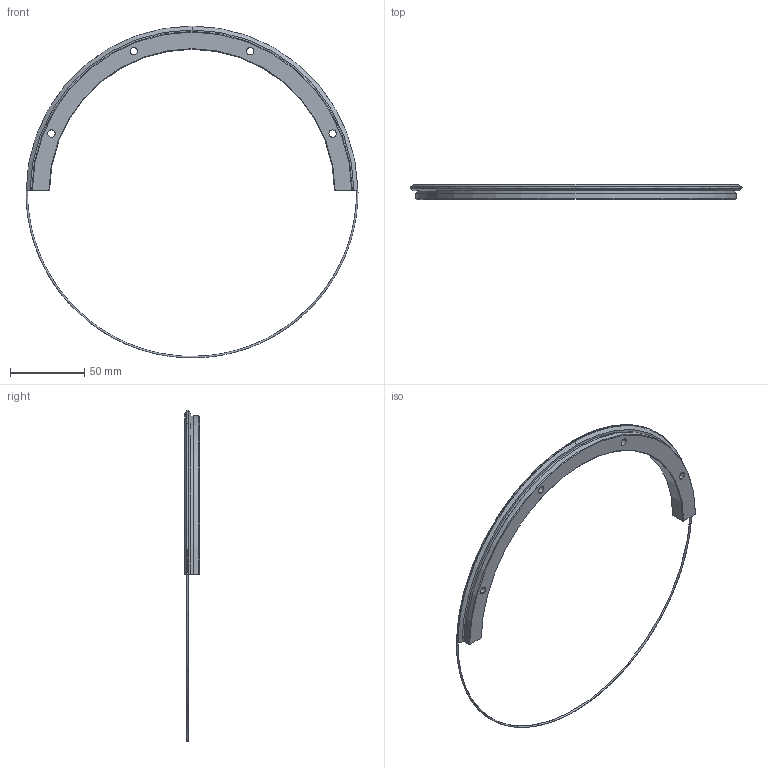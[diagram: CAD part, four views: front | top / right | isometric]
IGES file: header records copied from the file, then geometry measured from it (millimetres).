
Start section: 3D InterOp IGES (v. 2019 1.0.2), Spatial Corp. Copyright (c) 1999-2017.
Global section: file name: REV 223 R180.igs; native system: Spatial Corp.; preprocessor: 3D InterOp GENERIC/IGES 3.0; author: Noname; organization: Noname; date: 20220719.140131; units: millimetre
Bounding box: 223.39 x 10 x 223.18 mm (x, y, z)
Surface area: 19158.2 mm2 (no closed solid volume)
Topology: 0 solids, 0 shells, 36 faces, 182 edges, 181 vertices
Faces by surface type: revolution 26, extrusion 10
